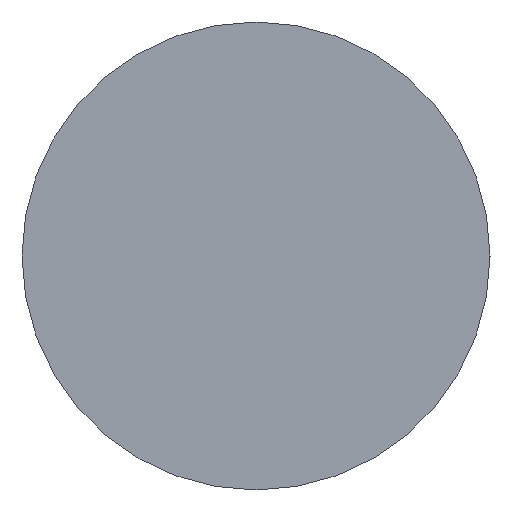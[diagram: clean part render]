
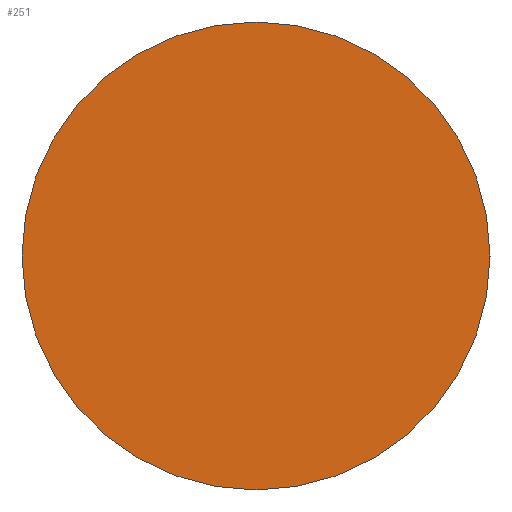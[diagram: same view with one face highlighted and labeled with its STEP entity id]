
A CAD part, left-side view. The second image highlights one B-rep face of the part: STEP entity #251.
In plain terms, the highlighted planar face has unit normal (-1, 0, 0).
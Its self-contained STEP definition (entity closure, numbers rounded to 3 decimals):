
#26=PLANE('',#294);
#39=FACE_OUTER_BOUND('',#65,.T.);
#65=EDGE_LOOP('',(#188));
#110=CIRCLE('',#288,13.);
#130=VERTEX_POINT('',#428);
#151=EDGE_CURVE('',#130,#130,#110,.T.);
#188=ORIENTED_EDGE('',*,*,#151,.T.);
#251=ADVANCED_FACE('',(#39),#26,.F.);
#288=AXIS2_PLACEMENT_3D('',#430,#335,#336);
#294=AXIS2_PLACEMENT_3D('',#440,#347,#348);
#335=DIRECTION('center_axis',(-1.,0.,0.));
#336=DIRECTION('ref_axis',(0.,0.,-1.));
#347=DIRECTION('center_axis',(1.,0.,0.));
#348=DIRECTION('ref_axis',(0.,0.,-1.));
#428=CARTESIAN_POINT('',(-23.4,0.,286.));
#430=CARTESIAN_POINT('Origin',(-23.4,0.,273.));
#440=CARTESIAN_POINT('Origin',(-23.4,0.,273.));
